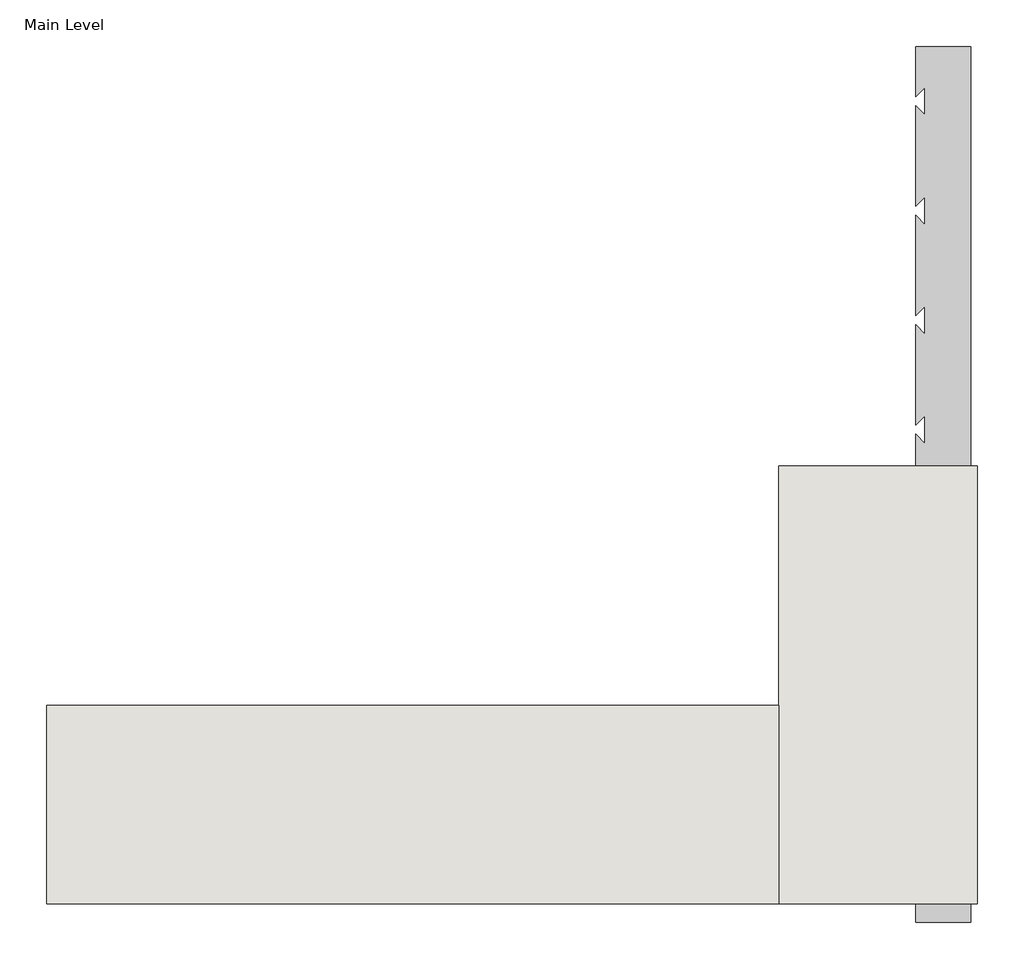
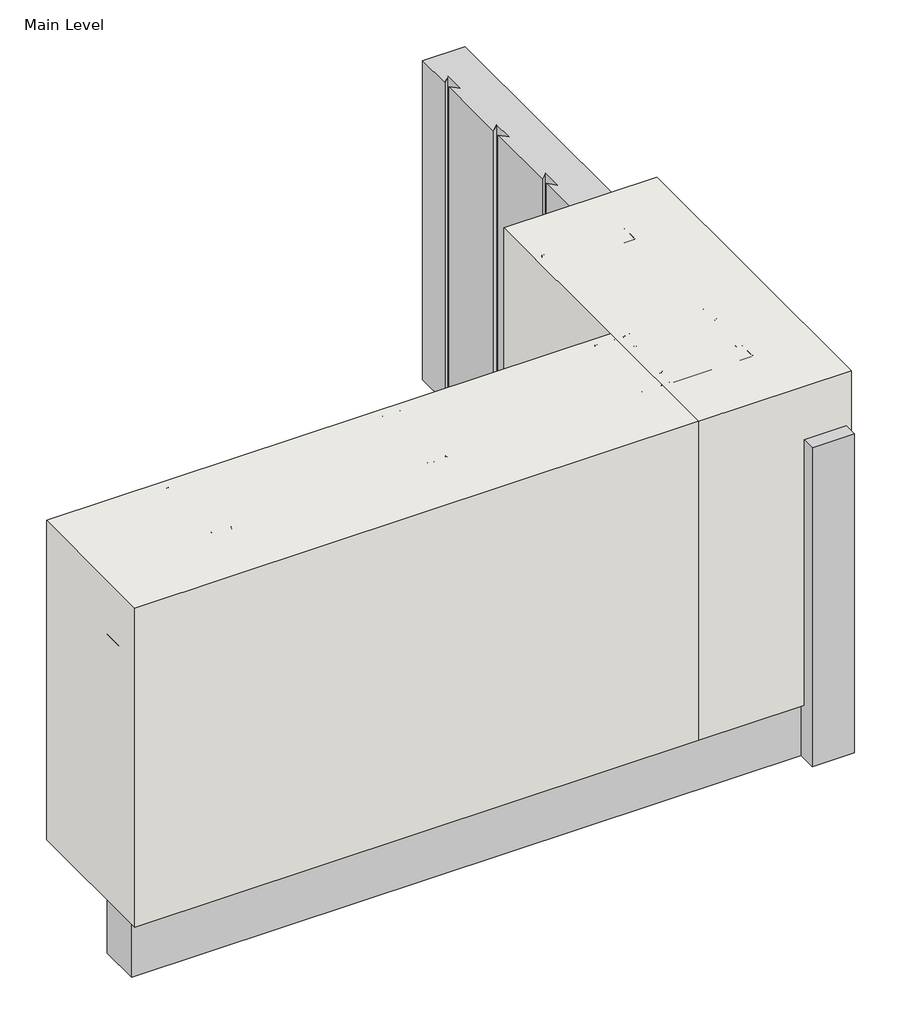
# One storey, incomplete: 36 proxies, 2 walls.
"""IFC4 building model written with IfcOpenShell, lengths in millimetres."""

from ifc_helpers import new_model, si_unit, origin, origin_with_axes, place, context, project, spatial, polyline, outline, extrude, faceted_brep, transform, mapped, element, save
from components import generic_models_0ed8512b, generic_models_91a65217, generic_models_599f1aef, generic_models_008e5ede, generic_models_03ec6e0e, proxy_998bcb27, proxy_63d6b373, proxy_d4c17246

model = new_model("IFC4")

# Units and contexts
model_context = context("Model", 3, world=origin())
ifc_project = project(units=[si_unit("LENGTHUNIT", "METRE", prefix="MILLI")], contexts=[model_context])

# Site, building, storey
site = spatial("IfcSite", under=ifc_project)
building = spatial("IfcBuilding", under=site)
storey = spatial("IfcBuildingStorey", under=building, Name="Main Level", Elevation=0.0)

# Proxies
placement = place(None, origin())
generic_models_shape = generic_models_0ed8512b(model_context)
element("IfcBuildingElementProxy", 1, Name="Durabond Generic Model Insulation Adhesive Flat : Durabond Generic Model Insulation Adhesive Flat", ObjectType="Durabond Generic Model Insulation Adhesive Flat : Durabond Generic Model Insulation Adhesive Flat", at=placement, inside=storey, context=model_context, shape_type="MappedRepresentation", body=[
    mapped(generic_models_shape, transform((26253.4289273, 627.6316297, 0.0), x_axis=(1.0, 0.0, 0.0), y_axis=(0.0, 1.0, 0.0), z_axis=(0.0, 0.0, 1.0))),
])
element("IfcBuildingElementProxy", 2, Name="Durabond Generic Model Insulation Adhesive Flat : Durabond Generic Model Insulation Adhesive Flat", ObjectType="Durabond Generic Model Insulation Adhesive Flat : Durabond Generic Model Insulation Adhesive Flat", at=placement, inside=storey, context=model_context, shape_type="MappedRepresentation", body=[
    mapped(generic_models_shape, transform((26329.6289273, 627.6316297, 0.0), x_axis=(1.0, 0.0, 0.0), y_axis=(0.0, 1.0, 0.0), z_axis=(0.0, 0.0, 1.0))),
])
element("IfcBuildingElementProxy", 3, Name="Durabond Generic Model Insulation Adhesive Flat : Durabond Generic Model Insulation Adhesive Flat", ObjectType="Durabond Generic Model Insulation Adhesive Flat : Durabond Generic Model Insulation Adhesive Flat", at=placement, inside=storey, context=model_context, shape_type="MappedRepresentation", body=[
    mapped(generic_models_shape, transform((26405.8289273, 627.6316297, 0.0), x_axis=(1.0, 0.0, 0.0), y_axis=(0.0, 1.0, 0.0), z_axis=(0.0, 0.0, 1.0))),
])
element("IfcBuildingElementProxy", 4, Name="Durabond Generic Model Insulation Adhesive Flat : Durabond Generic Model Insulation Adhesive Flat", ObjectType="Durabond Generic Model Insulation Adhesive Flat : Durabond Generic Model Insulation Adhesive Flat", at=placement, inside=storey, context=model_context, shape_type="MappedRepresentation", body=[
    mapped(generic_models_shape, transform((26482.0289273, 627.6316297, 0.0), x_axis=(1.0, 0.0, 0.0), y_axis=(0.0, 1.0, 0.0), z_axis=(0.0, 0.0, 1.0))),
])
element("IfcBuildingElementProxy", 5, Name="Durabond Generic Model Insulation Adhesive Flat : Durabond Generic Model Insulation Adhesive Flat", ObjectType="Durabond Generic Model Insulation Adhesive Flat : Durabond Generic Model Insulation Adhesive Flat", at=placement, inside=storey, context=model_context, shape_type="MappedRepresentation", body=[
    mapped(generic_models_shape, transform((26558.2289273, 627.6316297, 0.0), x_axis=(1.0, 0.0, 0.0), y_axis=(0.0, 1.0, 0.0), z_axis=(0.0, 0.0, 1.0))),
])
element("IfcBuildingElementProxy", 6, Name="Durabond Generic Model Insulation Adhesive Flat : Durabond Generic Model Insulation Adhesive Flat", ObjectType="Durabond Generic Model Insulation Adhesive Flat : Durabond Generic Model Insulation Adhesive Flat", at=placement, inside=storey, context=model_context, shape_type="MappedRepresentation", body=[
    mapped(generic_models_shape, transform((26634.4289273, 627.6316297, 0.0), x_axis=(1.0, 0.0, 0.0), y_axis=(0.0, 1.0, 0.0), z_axis=(0.0, 0.0, 1.0))),
])
element("IfcBuildingElementProxy", 7, Name="Durabond Generic Model Insulation Adhesive Flat : Durabond Generic Model Insulation Adhesive Flat", ObjectType="Durabond Generic Model Insulation Adhesive Flat : Durabond Generic Model Insulation Adhesive Flat", at=placement, inside=storey, context=model_context, shape_type="MappedRepresentation", body=[
    mapped(generic_models_shape, transform((26710.6289273, 627.6316297, 0.0), x_axis=(1.0, 0.0, 0.0), y_axis=(0.0, 1.0, 0.0), z_axis=(0.0, 0.0, 1.0))),
])
element("IfcBuildingElementProxy", 8, Name="Durabond Generic Model Insulation Adhesive Flat : Durabond Generic Model Insulation Adhesive Flat", ObjectType="Durabond Generic Model Insulation Adhesive Flat : Durabond Generic Model Insulation Adhesive Flat", at=placement, inside=storey, context=model_context, shape_type="MappedRepresentation", body=[
    mapped(generic_models_shape, transform((26786.8289273, 627.6316297, 0.0), x_axis=(1.0, 0.0, 0.0), y_axis=(0.0, 1.0, 0.0), z_axis=(0.0, 0.0, 1.0))),
])
element("IfcBuildingElementProxy", 9, Name="Durabond Generic Model Insulation Adhesive Flat : Durabond Generic Model Insulation Adhesive Flat", ObjectType="Durabond Generic Model Insulation Adhesive Flat : Durabond Generic Model Insulation Adhesive Flat", at=placement, inside=storey, context=model_context, shape_type="MappedRepresentation", body=[
    mapped(generic_models_shape, transform((26863.0289273, 627.6316297, 0.0), x_axis=(1.0, 0.0, 0.0), y_axis=(0.0, 1.0, 0.0), z_axis=(0.0, 0.0, 1.0))),
])
element("IfcBuildingElementProxy", 10, Name="Durabond Generic Model Insulation Adhesive Flat : Durabond Generic Model Insulation Adhesive Flat", ObjectType="Durabond Generic Model Insulation Adhesive Flat : Durabond Generic Model Insulation Adhesive Flat", at=placement, inside=storey, context=model_context, shape_type="MappedRepresentation", body=[
    mapped(generic_models_shape, transform((26939.2289273, 627.6316297, 0.0), x_axis=(1.0, 0.0, 0.0), y_axis=(0.0, 1.0, 0.0), z_axis=(0.0, 0.0, 1.0))),
])
element("IfcBuildingElementProxy", 11, Name="Durabond Generic Model Insulation Adhesive Flat : Durabond Generic Model Insulation Adhesive Flat", ObjectType="Durabond Generic Model Insulation Adhesive Flat : Durabond Generic Model Insulation Adhesive Flat", at=placement, inside=storey, context=model_context, shape_type="MappedRepresentation", body=[
    mapped(generic_models_shape, transform((27015.4289273, 627.6316297, 0.0), x_axis=(1.0, 0.0, 0.0), y_axis=(0.0, 1.0, 0.0), z_axis=(0.0, 0.0, 1.0))),
])
element("IfcBuildingElementProxy", 12, Name="Durabond Generic Model Insulation Adhesive Flat : Durabond Generic Model Insulation Adhesive Flat", ObjectType="Durabond Generic Model Insulation Adhesive Flat : Durabond Generic Model Insulation Adhesive Flat", at=placement, inside=storey, context=model_context, shape_type="MappedRepresentation", body=[
    mapped(generic_models_shape, transform((27091.6289273, 627.6316297, 0.0), x_axis=(1.0, 0.0, 0.0), y_axis=(0.0, 1.0, 0.0), z_axis=(0.0, 0.0, 1.0))),
])
element("IfcBuildingElementProxy", 13, Name="Durabond Generic Model Insulation Adhesive Flat : Durabond Generic Model Insulation Adhesive Flat", ObjectType="Durabond Generic Model Insulation Adhesive Flat : Durabond Generic Model Insulation Adhesive Flat", at=placement, inside=storey, context=model_context, shape_type="MappedRepresentation", body=[
    mapped(generic_models_shape, transform((27167.8289273, 627.6316297, 0.0), x_axis=(1.0, 0.0, 0.0), y_axis=(0.0, 1.0, 0.0), z_axis=(0.0, 0.0, 1.0))),
])
element("IfcBuildingElementProxy", 14, Name="Durabond Generic Model Insulation Adhesive Flat : Durabond Generic Model Insulation Adhesive Flat", ObjectType="Durabond Generic Model Insulation Adhesive Flat : Durabond Generic Model Insulation Adhesive Flat", at=placement, inside=storey, context=model_context, shape_type="MappedRepresentation", body=[
    mapped(generic_models_shape, transform((27244.0289273, 627.6316297, 0.0), x_axis=(1.0, 0.0, 0.0), y_axis=(0.0, 1.0, 0.0), z_axis=(0.0, 0.0, 1.0))),
])
element("IfcBuildingElementProxy", 15, Name="Durabond Generic Model Insulation Adhesive Flat : Durabond Generic Model Insulation Adhesive Flat", ObjectType="Durabond Generic Model Insulation Adhesive Flat : Durabond Generic Model Insulation Adhesive Flat", at=placement, inside=storey, context=model_context, shape_type="MappedRepresentation", body=[
    mapped(generic_models_shape, transform((27320.2289273, 627.6316297, 0.0), x_axis=(1.0, 0.0, 0.0), y_axis=(0.0, 1.0, 0.0), z_axis=(0.0, 0.0, 1.0))),
])
element("IfcBuildingElementProxy", 16, Name="Durabond Generic Model Insulation Adhesive Flat : Durabond Generic Model Insulation Adhesive Flat", ObjectType="Durabond Generic Model Insulation Adhesive Flat : Durabond Generic Model Insulation Adhesive Flat", at=placement, inside=storey, context=model_context, shape_type="MappedRepresentation", body=[
    mapped(generic_models_shape, transform((27396.4289273, 627.6316297, 0.0), x_axis=(1.0, 0.0, 0.0), y_axis=(0.0, 1.0, 0.0), z_axis=(0.0, 0.0, 1.0))),
])
generic_models_2_shape = generic_models_91a65217(model_context)
element("IfcBuildingElementProxy", 17, Name="Durabond Generic Model Insulation Adhesive Flat : Durabond Generic Model Insulation Adhesive Flat", ObjectType="Durabond Generic Model Insulation Adhesive Flat : Durabond Generic Model Insulation Adhesive Flat", at=placement, inside=storey, context=model_context, shape_type="MappedRepresentation", body=[
    mapped(generic_models_2_shape, transform((27421.8289273, 1084.8316297, 0.0), x_axis=(0.0, -1.0, 0.0), y_axis=(1.0, 0.0, 0.0), z_axis=(0.0, 0.0, 1.0))),
])
element("IfcBuildingElementProxy", 18, Name="Durabond Generic Model Insulation Adhesive Flat : Durabond Generic Model Insulation Adhesive Flat", ObjectType="Durabond Generic Model Insulation Adhesive Flat : Durabond Generic Model Insulation Adhesive Flat", at=placement, inside=storey, context=model_context, shape_type="MappedRepresentation", body=[
    mapped(generic_models_2_shape, transform((27421.8289273, 1008.6316297, 0.0), x_axis=(0.0, -1.0, 0.0), y_axis=(1.0, 0.0, 0.0), z_axis=(0.0, 0.0, 1.0))),
])
element("IfcBuildingElementProxy", 19, Name="Durabond Generic Model Insulation Adhesive Flat : Durabond Generic Model Insulation Adhesive Flat", ObjectType="Durabond Generic Model Insulation Adhesive Flat : Durabond Generic Model Insulation Adhesive Flat", at=placement, inside=storey, context=model_context, shape_type="MappedRepresentation", body=[
    mapped(generic_models_2_shape, transform((27421.8289273, 932.4316297, 0.0), x_axis=(0.0, -1.0, 0.0), y_axis=(1.0, 0.0, 0.0), z_axis=(0.0, 0.0, 1.0))),
])
element("IfcBuildingElementProxy", 20, Name="Durabond Generic Model Insulation Adhesive Flat : Durabond Generic Model Insulation Adhesive Flat", ObjectType="Durabond Generic Model Insulation Adhesive Flat : Durabond Generic Model Insulation Adhesive Flat", at=placement, inside=storey, context=model_context, shape_type="MappedRepresentation", body=[
    mapped(generic_models_2_shape, transform((27421.8289273, 856.2316297, 0.0), x_axis=(0.0, -1.0, 0.0), y_axis=(1.0, 0.0, 0.0), z_axis=(0.0, 0.0, 1.0))),
])
element("IfcBuildingElementProxy", 21, Name="Durabond Generic Model Insulation Adhesive Flat : Durabond Generic Model Insulation Adhesive Flat", ObjectType="Durabond Generic Model Insulation Adhesive Flat : Durabond Generic Model Insulation Adhesive Flat", at=placement, inside=storey, context=model_context, shape_type="MappedRepresentation", body=[
    mapped(generic_models_2_shape, transform((27421.8289273, 780.0316297, 0.0), x_axis=(0.0, -1.0, 0.0), y_axis=(1.0, 0.0, 0.0), z_axis=(0.0, 0.0, 1.0))),
])
element("IfcBuildingElementProxy", 22, Name="Durabond Generic Model Insulation Adhesive Flat : Durabond Generic Model Insulation Adhesive Flat", ObjectType="Durabond Generic Model Insulation Adhesive Flat : Durabond Generic Model Insulation Adhesive Flat", at=placement, inside=storey, context=model_context, shape_type="MappedRepresentation", body=[
    mapped(generic_models_2_shape, transform((27421.8289273, 703.8316297, 0.0), x_axis=(0.0, -1.0, 0.0), y_axis=(1.0, 0.0, 0.0), z_axis=(0.0, 0.0, 1.0))),
])
element("IfcBuildingElementProxy", 23, Name="Durabond Generic Model Insulation Adhesive Flat : Durabond Generic Model Insulation Adhesive Flat", ObjectType="Durabond Generic Model Insulation Adhesive Flat : Durabond Generic Model Insulation Adhesive Flat", at=placement, inside=storey, context=model_context, shape_type="MappedRepresentation", body=[
    mapped(generic_models_2_shape, transform((27421.8289273, 653.0316297, 0.0), x_axis=(0.0, -1.0, 0.0), y_axis=(1.0, 0.0, 0.0), z_axis=(0.0, 0.0, 1.0))),
])
generic_models_3_shape = generic_models_599f1aef(model_context)
element("IfcBuildingElementProxy", 24, Name="CRAi Generic Model Metal Stud Array : CRAi Generic Model Metal Stud Array", ObjectType="CRAi Generic Model Metal Stud Array : CRAi Generic Model Metal Stud Array", at=placement, inside=storey, context=model_context, shape_type="MappedRepresentation", body=[
    mapped(generic_models_3_shape, transform((27323.4039273, 853.0566297, 0.0), x_axis=(0.0, 1.0, 0.0), y_axis=(-1.0, 0.0, 0.0), z_axis=(0.0, 0.0, 1.0))),
])
generic_models_4_shape = generic_models_008e5ede(model_context)
element("IfcBuildingElementProxy", 25, Name="CRAi Generic Model Metal Stud Array : CRAi Generic Model Metal Stud Array", ObjectType="CRAi Generic Model Metal Stud Array : CRAi Generic Model Metal Stud Array", at=placement, inside=storey, context=model_context, shape_type="MappedRepresentation", body=[
    mapped(generic_models_4_shape, transform((26828.1039273, 726.0566297, 0.0), x_axis=(-1.0, 0.0, 0.0), y_axis=(0.0, -1.0, 0.0), z_axis=(0.0, 0.0, 1.0))),
])
generic_models_5_shape = generic_models_03ec6e0e(model_context)
element("IfcBuildingElementProxy", 26, Name="CRAi Generic Model Drywall Screw : CRAi Generic Model Drywall Screw", ObjectType="CRAi Generic Model Drywall Screw : CRAi Generic Model Drywall Screw", at=placement, inside=storey, context=model_context, shape_type="MappedRepresentation", body=[
    mapped(generic_models_5_shape, transform((27215.4539273, 633.9816297, 584.2), x_axis=(1.0, 0.0, 0.0), y_axis=(0.0, 0.0, 1.0), z_axis=(0.0, -1.0, 0.0))),
])
element("IfcBuildingElementProxy", 27, Name="CRAi Generic Model Drywall Screw : CRAi Generic Model Drywall Screw", ObjectType="CRAi Generic Model Drywall Screw : CRAi Generic Model Drywall Screw", at=placement, inside=storey, context=model_context, shape_type="MappedRepresentation", body=[
    mapped(generic_models_5_shape, transform((26828.1039273, 633.9816297, 584.2), x_axis=(1.0, 0.0, 0.0), y_axis=(0.0, 0.0, 1.0), z_axis=(0.0, -1.0, 0.0))),
])
element("IfcBuildingElementProxy", 28, Name="CRAi Generic Model Drywall Screw : CRAi Generic Model Drywall Screw", ObjectType="CRAi Generic Model Drywall Screw : CRAi Generic Model Drywall Screw", at=placement, inside=storey, context=model_context, shape_type="MappedRepresentation", body=[
    mapped(generic_models_5_shape, transform((26440.7539273, 633.9816297, 584.2), x_axis=(1.0, 0.0, 0.0), y_axis=(0.0, 0.0, 1.0), z_axis=(0.0, -1.0, 0.0))),
])
element("IfcBuildingElementProxy", 29, Name="CRAi Generic Model Drywall Screw : CRAi Generic Model Drywall Screw", ObjectType="CRAi Generic Model Drywall Screw : CRAi Generic Model Drywall Screw", at=placement, inside=storey, context=model_context, shape_type="MappedRepresentation", body=[
    mapped(generic_models_5_shape, transform((27415.4789273, 1037.2066297, 584.2), x_axis=(0.0, 1.0, 0.0), y_axis=(0.0, 0.0, 1.0), z_axis=(1.0, 0.0, 0.0))),
])
element("IfcBuildingElementProxy", 30, Name="CRAi Generic Model Drywall Screw : CRAi Generic Model Drywall Screw", ObjectType="CRAi Generic Model Drywall Screw : CRAi Generic Model Drywall Screw", at=placement, inside=storey, context=model_context, shape_type="MappedRepresentation", body=[
    mapped(generic_models_5_shape, transform((27415.4789273, 783.2066297, 584.2), x_axis=(0.0, 1.0, 0.0), y_axis=(0.0, 0.0, 1.0), z_axis=(1.0, 0.0, 0.0))),
])
element("IfcBuildingElementProxy", 31, Name="CRAi Generic Model Drywall Screw : CRAi Generic Model Drywall Screw", ObjectType="CRAi Generic Model Drywall Screw : CRAi Generic Model Drywall Screw", at=placement, inside=storey, context=model_context, shape_type="MappedRepresentation", body=[
    mapped(generic_models_5_shape, transform((27415.4789273, 668.9066297, 584.2), x_axis=(0.0, 1.0, 0.0), y_axis=(0.0, 0.0, 1.0), z_axis=(1.0, 0.0, 0.0))),
])
element("IfcBuildingElementProxy", 32, Name="CRAi Generic Model Drywall Screw : CRAi Generic Model Drywall Screw", ObjectType="CRAi Generic Model Drywall Screw : CRAi Generic Model Drywall Screw", at=placement, inside=storey, context=model_context, shape_type="MappedRepresentation", body=[
    mapped(generic_models_5_shape, transform((27380.5539273, 633.9816297, 584.2), x_axis=(1.0, 0.0, 0.0), y_axis=(0.0, 0.0, 1.0), z_axis=(0.0, -1.0, 0.0))),
])
proxy_shape = proxy_998bcb27(model_context)
element("IfcBuildingElementProxy", 33, Name="Durabond Generic Model Flexlite Insulation Board : 3\"", ObjectType="Durabond Generic Model Flexlite Insulation Board : 3\"", at=placement, inside=storey, context=model_context, shape_type="MappedRepresentation", body=[
    mapped(proxy_shape, transform((26824.9289273, 624.4566297, 203.2), x_axis=(1.0, 0.0, 0.0), y_axis=(0.0, 0.0, 1.0), z_axis=(0.0, -1.0, 0.0))),
])
element("IfcBuildingElementProxy", 34, Name="Durabond Generic Model Flexlite Insulation Board : 3\"", ObjectType="Durabond Generic Model Flexlite Insulation Board : 3\"", at=placement, inside=storey, context=model_context, shape_type="MappedRepresentation", body=[
    mapped(proxy_shape, transform((27425.0039273, 1122.9316297, 203.2), x_axis=(0.0, 1.0, 0.0), y_axis=(0.0, 0.0, 1.0), z_axis=(1.0, 0.0, 0.0))),
])
proxy_2_shape = proxy_63d6b373(model_context)
element("IfcBuildingElementProxy", 35, Name="Durabond Generic Model Corner 90 Membrane : 4\" Barrier Seam Tape", ObjectType="Durabond Generic Model Corner 90 Membrane : 4\" Barrier Seam Tape", at=placement, inside=storey, context=model_context, shape_type="MappedRepresentation", body=[
    mapped(proxy_2_shape, transform((27415.4789273, 633.9816297, 0.0), x_axis=(1.0, 0.0, 0.0), y_axis=(0.0, 1.0, 0.0), z_axis=(0.0, 0.0, 1.0))),
])
proxy_3_shape = proxy_d4c17246(model_context)
element("IfcBuildingElementProxy", 36, Name="CRAi Generic Model Metal Stud : Metal Framing Stud - 1\" x 3.5\"", ObjectType="CRAi Generic Model Metal Stud : Metal Framing Stud - 1\" x 3.5\"", at=placement, inside=storey, context=model_context, shape_type="MappedRepresentation", body=[
    mapped(proxy_3_shape, transform((27323.4039273, 783.2066297, 0.0), x_axis=(0.0, 1.0, 0.0), y_axis=(-1.0, 0.0, 0.0), z_axis=(0.0, 0.0, 1.0))),
])

# Walls
element("IfcWall", 37, ObjectType="189mm (7.5”) EIFS Field Applied on Mtl. Stud Layer - 50mm Grooved Insulation Board Metal Stud Wall (AirStop)", at=placement, inside=storey, context=model_context, shape_type="SweptSolid", body=[
    extrude(outline(polyline([(27234.5039273, 538.7316297), (26215.3289273, 538.7316297), (26215.3289273, 814.9566297), (27234.5039273, 814.9566297), (27234.5039273, 538.7316297)])), origin_with_axes(), (0.0, 0.0, 1.0), 609.6),
])
element("IfcWall", 38, ObjectType="189mm (7.5”) EIFS Field Applied on Mtl. Stud Layer - 50mm Grooved Insulation Board Metal Stud Wall (AirStop)", at=placement, inside=storey, context=model_context, shape_type="Brep", body=[
    faceted_brep([(27510.7289273, 538.7316297, 0.0), (27510.7289273, 1148.3316297, 0.0), (27510.7289273, 1148.3316297, 609.6), (27510.7289273, 538.7316297, 609.6), (27234.5039273, 538.7316297, 0.0), (27234.5039273, 538.7316297, 609.6), (27234.5039273, 814.9566297, 609.6), (27234.5039273, 1148.3316297, 609.6), (27234.5039273, 1148.3316297, 0.0), (27234.5039273, 814.9566297, 0.0)], [[[0, 1, 2, 3]], [[4, 5, 6, 7, 8, 9]], [[1, 0, 4, 9, 8]], [[2, 1, 8, 7]], [[3, 2, 7, 6, 5]], [[0, 3, 5, 4]]]),
])

save(model, "model.ifc")
